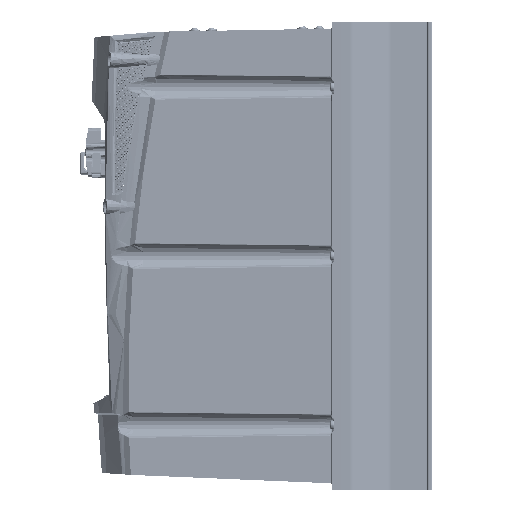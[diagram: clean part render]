
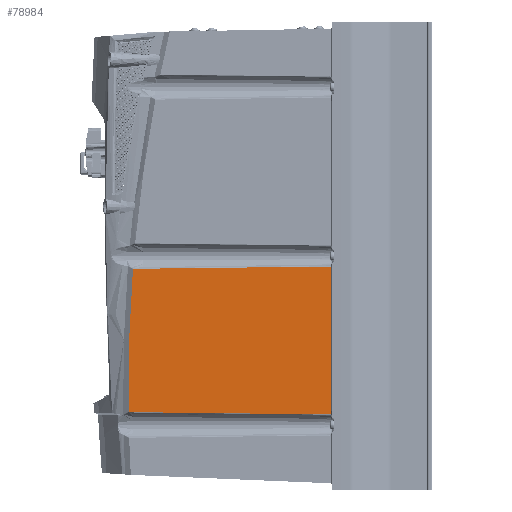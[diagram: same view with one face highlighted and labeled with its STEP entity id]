
A CAD part, left-side view. The second image highlights one B-rep face of the part: STEP entity #78984.
In plain terms, the highlighted planar face has unit normal (-1, 0.018, 0).
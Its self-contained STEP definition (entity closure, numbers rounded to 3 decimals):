
#6126 = CARTESIAN_POINT ( 'NONE',  ( -107.186, 233.661, -120.112 ) ) ;
#14773 = VERTEX_POINT ( 'NONE', #126400 ) ;
#24608 = DIRECTION ( 'NONE',  ( -1., 0.017, 0. ) ) ;
#43729 = VERTEX_POINT ( 'NONE', #6126 ) ;
#45350 = CARTESIAN_POINT ( 'NONE',  ( -107.186, 233.661, -120.112 ) ) ;
#50029 = CARTESIAN_POINT ( 'NONE',  ( -107.186, 233.664, -120.073 ) ) ;
#50207 = VERTEX_POINT ( 'NONE', #230549 ) ;
#55650 = CARTESIAN_POINT ( 'NONE',  ( -109.903, 77.991, -8.103 ) ) ;
#56190 = VECTOR ( 'NONE', #241174, 1000. ) ;
#58162 = VERTEX_POINT ( 'NONE', #55650 ) ;
#63747 = ORIENTED_EDGE ( 'NONE', *, *, #178544, .T. ) ;
#72536 = PLANE ( 'NONE',  #126380 ) ;
#78984 = ADVANCED_FACE ( 'NONE', ( #99881 ), #72536, .T. ) ;
#79012 = CARTESIAN_POINT ( 'NONE',  ( -107.186, 233.663, -120.099 ) ) ;
#79552 = EDGE_CURVE ( 'NONE', #147894, #225369, #229921, .T. ) ;
#82253 = ORIENTED_EDGE ( 'NONE', *, *, #79552, .T. ) ;
#88965 = CARTESIAN_POINT ( 'NONE',  ( -107.245, 230.279, -9.874 ) ) ;
#89874 = CARTESIAN_POINT ( 'NONE',  ( -109.903, 77.991, -121.897 ) ) ;
#90276 = B_SPLINE_CURVE_WITH_KNOTS ( 'NONE', 3,
 ( #114622, #218814, #323093, #88965 ),
 .UNSPECIFIED., .F., .F.,
 ( 4, 4 ),
 ( 0., 0. ),
 .UNSPECIFIED. ) ;
#99881 = FACE_OUTER_BOUND ( 'NONE', #300580, .T. ) ;
#106347 = CARTESIAN_POINT ( 'NONE',  ( -107.186, 233.664, -120.086 ) ) ;
#114622 = CARTESIAN_POINT ( 'NONE',  ( -107.245, 230.276, -9.853 ) ) ;
#118953 = CARTESIAN_POINT ( 'NONE',  ( -108.998, 129.88, -121.237 ) ) ;
#126380 = AXIS2_PLACEMENT_3D ( 'NONE', #252027, #24608, #226364 ) ;
#126400 = CARTESIAN_POINT ( 'NONE',  ( -109.903, 77.991, -121.897 ) ) ;
#133574 = CARTESIAN_POINT ( 'NONE',  ( -107.221, 231.689, -28.201 ) ) ;
#136985 = CARTESIAN_POINT ( 'NONE',  ( -109.903, 77.991, -180. ) ) ;
#147218 = CARTESIAN_POINT ( 'NONE',  ( -109.017, 128.752, -8.749 ) ) ;
#147894 = VERTEX_POINT ( 'NONE', #159950 ) ;
#159950 = CARTESIAN_POINT ( 'NONE',  ( -107.245, 230.279, -9.874 ) ) ;
#160907 = CARTESIAN_POINT ( 'NONE',  ( -107.186, 233.664, -120.073 ) ) ;
#170110 = ORIENTED_EDGE ( 'NONE', *, *, #300447, .T. ) ;
#170538 = B_SPLINE_CURVE_WITH_KNOTS ( 'NONE', 3,
 ( #301048, #147218, #224077, #225763 ),
 .UNSPECIFIED., .F., .F.,
 ( 4, 4 ),
 ( 0., 0.152 ),
 .UNSPECIFIED. ) ;
#178544 = EDGE_CURVE ( 'NONE', #225369, #43729, #192161, .T. ) ;
#183123 = CARTESIAN_POINT ( 'NONE',  ( -107.245, 230.279, -9.874 ) ) ;
#184807 = CARTESIAN_POINT ( 'NONE',  ( -107.203, 232.677, -46.555 ) ) ;
#188218 = LINE ( 'NONE', #136985, #56190 ) ;
#192161 = B_SPLINE_CURVE_WITH_KNOTS ( 'NONE', 3,
 ( #50029, #106347, #79012, #207229 ),
 .UNSPECIFIED., .F., .F.,
 ( 4, 4 ),
 ( 0., 0. ),
 .UNSPECIFIED. ) ;
#192316 = ORIENTED_EDGE ( 'NONE', *, *, #303253, .T. ) ;
#207229 = CARTESIAN_POINT ( 'NONE',  ( -107.186, 233.661, -120.112 ) ) ;
#207352 = EDGE_CURVE ( 'NONE', #14773, #58162, #188218, .T. ) ;
#213813 = CARTESIAN_POINT ( 'NONE',  ( -107.184, 233.806, -83.314 ) ) ;
#218814 = CARTESIAN_POINT ( 'NONE',  ( -107.245, 230.277, -9.86 ) ) ;
#224077 = CARTESIAN_POINT ( 'NONE',  ( -108.131, 179.514, -9.321 ) ) ;
#225369 = VERTEX_POINT ( 'NONE', #331732 ) ;
#225763 = CARTESIAN_POINT ( 'NONE',  ( -107.245, 230.276, -9.853 ) ) ;
#226364 = DIRECTION ( 'NONE',  ( 0.017, 1., 0. ) ) ;
#229316 = ORIENTED_EDGE ( 'NONE', *, *, #302339, .T. ) ;
#229921 = B_SPLINE_CURVE_WITH_KNOTS ( 'NONE', 3,
 ( #183123, #133574, #184807, #213813, #311321, #160907 ),
 .UNSPECIFIED., .F., .F.,
 ( 4, 2, 4 ),
 ( 0.003, 0.5, 0.997 ),
 .UNSPECIFIED. ) ;
#230549 = CARTESIAN_POINT ( 'NONE',  ( -107.245, 230.276, -9.853 ) ) ;
#235514 = ORIENTED_EDGE ( 'NONE', *, *, #207352, .T. ) ;
#241174 = DIRECTION ( 'NONE',  ( 0., 0., 1. ) ) ;
#252027 = CARTESIAN_POINT ( 'NONE',  ( -110.001, 72.413, -180. ) ) ;
#279468 = CARTESIAN_POINT ( 'NONE',  ( -108.092, 181.77, -120.653 ) ) ;
#300447 = EDGE_CURVE ( 'NONE', #50207, #147894, #90276, .T. ) ;
#300580 = EDGE_LOOP ( 'NONE', ( #82253, #63747, #229316, #235514, #192316, #170110 ) ) ;
#301048 = CARTESIAN_POINT ( 'NONE',  ( -109.903, 77.991, -8.103 ) ) ;
#302339 = EDGE_CURVE ( 'NONE', #43729, #14773, #330328, .T. ) ;
#303253 = EDGE_CURVE ( 'NONE', #58162, #50207, #170538, .T. ) ;
#311321 = CARTESIAN_POINT ( 'NONE',  ( -107.181, 233.947, -101.694 ) ) ;
#323093 = CARTESIAN_POINT ( 'NONE',  ( -107.245, 230.278, -9.867 ) ) ;
#330328 = B_SPLINE_CURVE_WITH_KNOTS ( 'NONE', 3,
 ( #45350, #279468, #118953, #89874 ),
 .UNSPECIFIED., .F., .F.,
 ( 4, 4 ),
 ( 0., 0.156 ),
 .UNSPECIFIED. ) ;
#331732 = CARTESIAN_POINT ( 'NONE',  ( -107.186, 233.664, -120.073 ) ) ;
